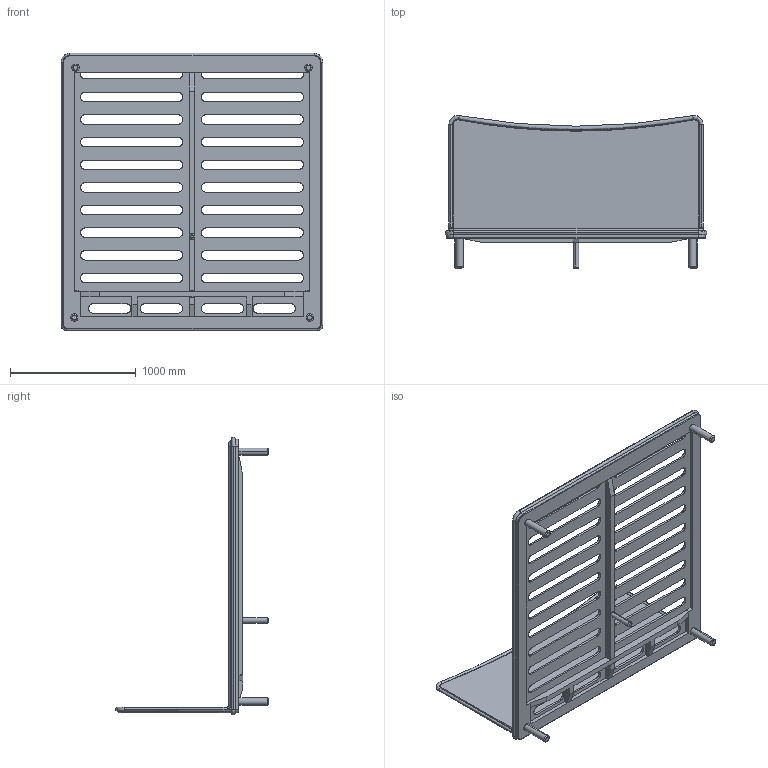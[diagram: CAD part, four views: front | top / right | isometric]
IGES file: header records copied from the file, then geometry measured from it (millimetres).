
Start section: SolidWorks IGES file using analytic representation for surfaces
Global section: file name: C:\Users\David.BDLE\Desktop\061AK_Carlton Bed_ve\061AK_Carlton Bed_ve_cama prmt.IGS; native system: SolidWorks 2016; preprocessor: SolidWorks 2016; author: David; date: 200319.175631; units: millimetre
Bounding box: 2080 x 1214.49 x 2205 mm (x, y, z)
Surface area: 13038633.9 mm2 (no closed solid volume)
Topology: 0 solids, 0 shells, 354 faces, 4612 edges, 4610 vertices
Faces by surface type: bspline 204, revolution 150
